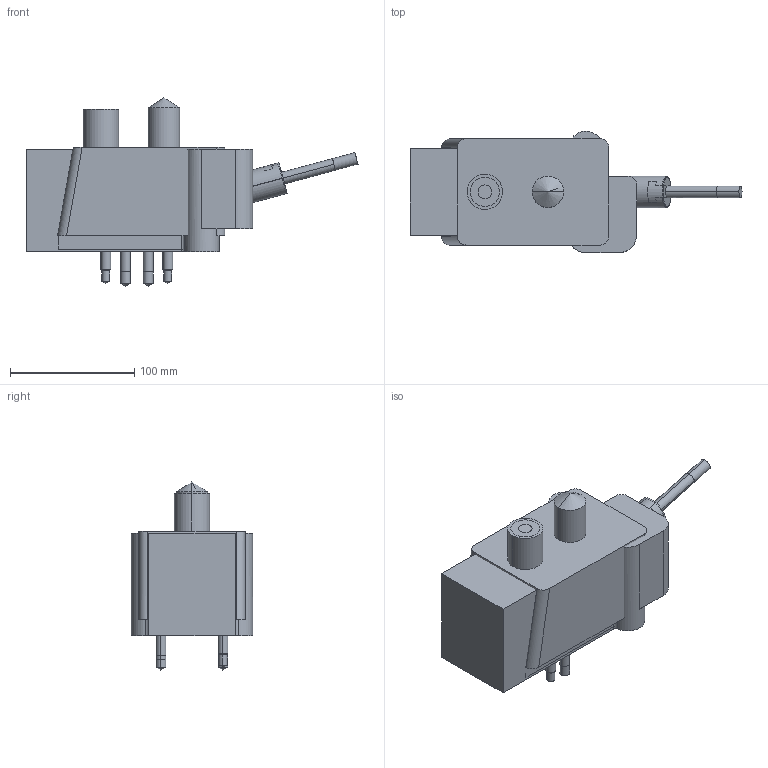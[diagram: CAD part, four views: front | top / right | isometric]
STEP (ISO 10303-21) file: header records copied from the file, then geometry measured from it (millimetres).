
FILE_DESCRIPTION((' '),'2;1');
FILE_NAME( 'EZ-15-P-L.stp', '2023-11-30T09:06:49', (' '), ('--- Datakit www.datakit.com---'), ' Datakit CrossCadWare V2020.4 Oct 21 2020', 'Export from SolidLink (Hexagon Production Software)', ' ');
FILE_SCHEMA(('AP242_MANAGED_MODEL_BASED_3D_ENGINEERING_MIM_LF { 1 0 10303 442 1 1 4 }'));
Length unit declared in the file: millimetre
Products named in the file (126): Workplanes; 1700579189; 1679434953; 1700503895; 1700504001; 1679426999; 1679427000; 1679427001; 1679427002; 1679427003; 1679427022; 1679427029; 1679427033; 1679427035; 1679427040; 1679427041; 1679427042; 1700841396; 1700841498; 1701271195; 1701353461; 1701353462; 1701353463; 1701353464; 1701353465; 1701353466; 1701353467; 1701353468; 1701353469; 1701353470; 1701353471; 1701353472; 1701353473; 1701353474; 1701353475; 1701353476; 1701353477; 1701353478; 1701353479; 1701353480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
Bounding box: 267.67 x 97.75 x 151.64 mm (x, y, z)
Volume: 2615148.9 mm3; surface area: 236053.5 mm2
Topology: 18 solids, 19 shells, 472 faces, 1331 edges, 1114 vertices
Faces by surface type: cylinder 184, plane 166, cone 102, sphere 6, torus 6, bspline 4, revolution 4
Entity records: 21091 total; most frequent: CARTESIAN_POINT 7457, DIRECTION 2734, ORIENTED_EDGE 2204, EDGE_CURVE 1108, AXIS2_PLACEMENT_3D 1076, VERTEX_POINT 708, VECTOR 578, LINE 578
